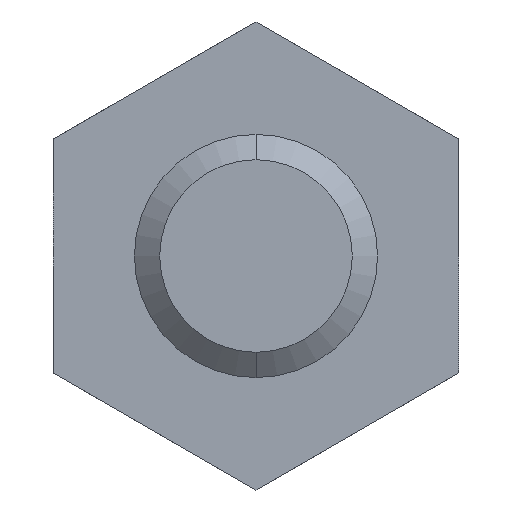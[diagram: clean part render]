
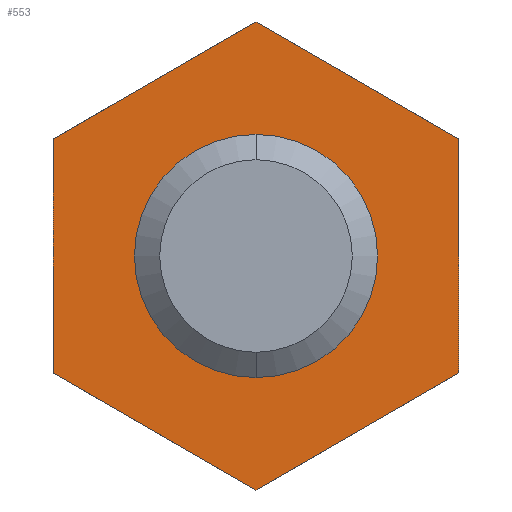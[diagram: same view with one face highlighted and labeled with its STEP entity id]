
A CAD part, front view. The second image highlights one B-rep face of the part: STEP entity #553.
In plain terms, the highlighted planar face has unit normal (0, -1, 0).
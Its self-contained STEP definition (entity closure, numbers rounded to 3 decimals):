
#43 = VERTEX_POINT ( 'NONE', #1129 ) ;
#46 = EDGE_CURVE ( 'NONE', #55, #43, #1185, .T. ) ;
#53 = EDGE_CURVE ( 'NONE', #43, #72, #1160, .T. ) ;
#55 = VERTEX_POINT ( 'NONE', #1211 ) ;
#58 = EDGE_CURVE ( 'NONE', #72, #64, #1208, .T. ) ;
#64 = VERTEX_POINT ( 'NONE', #1232 ) ;
#72 = VERTEX_POINT ( 'NONE', #1225 ) ;
#91 = EDGE_CURVE ( 'NONE', #64, #102, #1258, .T. ) ;
#102 = VERTEX_POINT ( 'NONE', #1286 ) ;
#115 = EDGE_CURVE ( 'NONE', #102, #116, #1302, .T. ) ;
#116 = VERTEX_POINT ( 'NONE', #1355 ) ;
#124 = EDGE_CURVE ( 'NONE', #116, #55, #1344, .T. ) ;
#222 = EDGE_CURVE ( 'NONE', #284, #224, #1516, .T. ) ;
#224 = VERTEX_POINT ( 'NONE', #1511 ) ;
#284 = VERTEX_POINT ( 'NONE', #1640 ) ;
#486 = ORIENTED_EDGE ( 'NONE', *, *, #115, .F. ) ;
#487 = ORIENTED_EDGE ( 'NONE', *, *, #91, .F. ) ;
#540 = ORIENTED_EDGE ( 'NONE', *, *, #58, .F. ) ;
#541 = ORIENTED_EDGE ( 'NONE', *, *, #53, .F. ) ;
#553 = ADVANCED_FACE ( 'NONE', ( #2125, #2122 ), #2121, .T. ) ;
#554 = EDGE_LOOP ( 'NONE', ( #555, #556 ) ) ;
#555 = ORIENTED_EDGE ( 'NONE', *, *, #222, .T. ) ;
#556 = ORIENTED_EDGE ( 'NONE', *, *, #557, .T. ) ;
#557 = EDGE_CURVE ( 'NONE', #224, #284, #2115, .T. ) ;
#558 = EDGE_LOOP ( 'NONE', ( #559, #560, #486, #487, #540, #541 ) ) ;
#559 = ORIENTED_EDGE ( 'NONE', *, *, #46, .F. ) ;
#560 = ORIENTED_EDGE ( 'NONE', *, *, #124, .F. ) ;
#1129 = CARTESIAN_POINT ( 'NONE',  ( 5., 12., 2.887 ) ) ;
#1157 = DIRECTION ( 'NONE',  ( 0., 0., -1. ) ) ;
#1158 = VECTOR ( 'NONE', #1157, 1000. ) ;
#1159 = CARTESIAN_POINT ( 'NONE',  ( 5., 12., 2.887 ) ) ;
#1160 = LINE ( 'NONE', #1159, #1158 ) ;
#1182 = DIRECTION ( 'NONE',  ( 0.866, 0., -0.5 ) ) ;
#1183 = VECTOR ( 'NONE', #1182, 1000. ) ;
#1184 = CARTESIAN_POINT ( 'NONE',  ( 0., 12., 5.774 ) ) ;
#1185 = LINE ( 'NONE', #1184, #1183 ) ;
#1197 = VECTOR ( 'NONE', #1206, 1000. ) ;
#1206 = DIRECTION ( 'NONE',  ( -0.866, 0., -0.5 ) ) ;
#1207 = CARTESIAN_POINT ( 'NONE',  ( 5., 12., -2.887 ) ) ;
#1208 = LINE ( 'NONE', #1207, #1197 ) ;
#1211 = CARTESIAN_POINT ( 'NONE',  ( 0., 12., 5.774 ) ) ;
#1225 = CARTESIAN_POINT ( 'NONE',  ( 5., 12., -2.887 ) ) ;
#1232 = CARTESIAN_POINT ( 'NONE',  ( 0., 12., -5.774 ) ) ;
#1247 = DIRECTION ( 'NONE',  ( -0.866, 0., 0.5 ) ) ;
#1256 = VECTOR ( 'NONE', #1247, 1000. ) ;
#1257 = CARTESIAN_POINT ( 'NONE',  ( 0., 12., -5.774 ) ) ;
#1258 = LINE ( 'NONE', #1257, #1256 ) ;
#1286 = CARTESIAN_POINT ( 'NONE',  ( -5., 12., -2.887 ) ) ;
#1300 = VECTOR ( 'NONE', #1356, 1000. ) ;
#1301 = CARTESIAN_POINT ( 'NONE',  ( -5., 12., -2.887 ) ) ;
#1302 = LINE ( 'NONE', #1301, #1300 ) ;
#1341 = DIRECTION ( 'NONE',  ( 0.866, 0., 0.5 ) ) ;
#1342 = VECTOR ( 'NONE', #1341, 1000. ) ;
#1343 = CARTESIAN_POINT ( 'NONE',  ( -5., 12., 2.887 ) ) ;
#1344 = LINE ( 'NONE', #1343, #1342 ) ;
#1355 = CARTESIAN_POINT ( 'NONE',  ( -5., 12., 2.887 ) ) ;
#1356 = DIRECTION ( 'NONE',  ( 0., 0., 1. ) ) ;
#1511 = CARTESIAN_POINT ( 'NONE',  ( 3., 12., 0. ) ) ;
#1512 = DIRECTION ( 'NONE',  ( -1., 0., 0. ) ) ;
#1513 = DIRECTION ( 'NONE',  ( 0., 1., 0. ) ) ;
#1514 = CARTESIAN_POINT ( 'NONE',  ( 0., 12., 0. ) ) ;
#1515 = AXIS2_PLACEMENT_3D ( 'NONE', #1514, #1513, #1512 ) ;
#1516 = CIRCLE ( 'NONE', #1515, 3. ) ;
#1640 = CARTESIAN_POINT ( 'NONE',  ( -3., 12., 0. ) ) ;
#2112 = DIRECTION ( 'NONE',  ( -1., 0., 0. ) ) ;
#2113 = DIRECTION ( 'NONE',  ( 0., 1., 0. ) ) ;
#2114 = AXIS2_PLACEMENT_3D ( 'NONE', #2119, #2113, #2112 ) ;
#2115 = CIRCLE ( 'NONE', #2114, 3. ) ;
#2116 = DIRECTION ( 'NONE',  ( 1., 0., 0. ) ) ;
#2117 = DIRECTION ( 'NONE',  ( 0., -1., 0. ) ) ;
#2118 = CARTESIAN_POINT ( 'NONE',  ( -3., 12., 0. ) ) ;
#2119 = CARTESIAN_POINT ( 'NONE',  ( 0., 12., 0. ) ) ;
#2120 = AXIS2_PLACEMENT_3D ( 'NONE', #2118, #2117, #2116 ) ;
#2121 = PLANE ( 'NONE',  #2120 ) ;
#2122 = FACE_OUTER_BOUND ( 'NONE', #558, .T. ) ;
#2125 = FACE_BOUND ( 'NONE', #554, .T. ) ;
